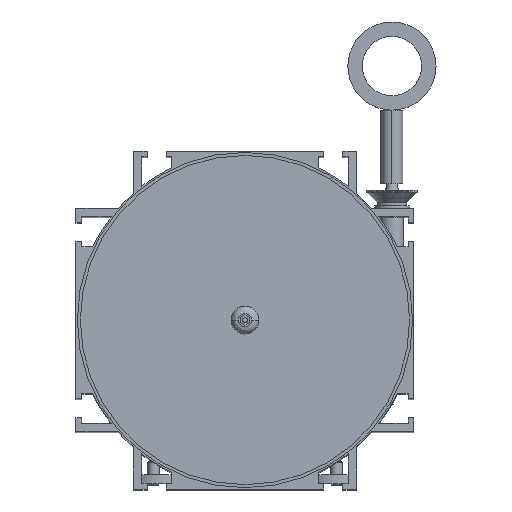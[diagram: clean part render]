
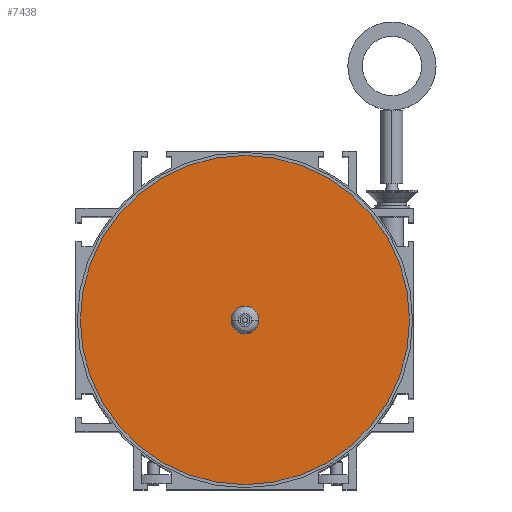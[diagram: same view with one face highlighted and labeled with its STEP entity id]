
A CAD part, top view. The second image highlights one B-rep face of the part: STEP entity #7438.
In plain terms, the highlighted planar face has unit normal (0, 0, 1).
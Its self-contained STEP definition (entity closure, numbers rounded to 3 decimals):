
#1903=CARTESIAN_POINT('',(0.,0.,180.5));
#1904=DIRECTION('',(0.,0.,1.));
#1905=DIRECTION('',(-1.,0.,0.));
#1906=AXIS2_PLACEMENT_3D('',#1903,#1904,#1905);
#1908=CARTESIAN_POINT('',(0.,0.,180.5));
#1909=DIRECTION('',(0.,0.,-1.));
#1910=DIRECTION('',(-1.,0.,0.));
#1911=AXIS2_PLACEMENT_3D('',#1908,#1909,#1910);
#1913=CARTESIAN_POINT('',(0.,0.,180.5));
#1914=DIRECTION('',(0.,0.,1.));
#1915=DIRECTION('',(-1.,0.,0.));
#1916=AXIS2_PLACEMENT_3D('',#1913,#1914,#1915);
#1918=CARTESIAN_POINT('',(0.,0.,180.5));
#1919=DIRECTION('',(0.,0.,1.));
#1920=DIRECTION('',(1.,0.,0.));
#1921=AXIS2_PLACEMENT_3D('',#1918,#1919,#1920);
#4429=CARTESIAN_POINT('',(-56.,0.,180.5));
#4430=CARTESIAN_POINT('',(56.,0.,180.5));
#4431=VERTEX_POINT('',#4429);
#4432=VERTEX_POINT('',#4430);
#4477=CARTESIAN_POINT('',(-4.75,0.,180.5));
#4478=CARTESIAN_POINT('',(4.75,0.,180.5));
#4479=VERTEX_POINT('',#4477);
#4480=VERTEX_POINT('',#4478);
#7423=CARTESIAN_POINT('',(0.,0.,180.5));
#7424=DIRECTION('',(0.,0.,-1.));
#7425=DIRECTION('',(1.,0.,0.));
#7426=AXIS2_PLACEMENT_3D('',#7423,#7424,#7425);
#7427=PLANE('',#7426);
#7428=ORIENTED_EDGE('',*,*,#7417,.F.);
#7429=ORIENTED_EDGE('',*,*,#7403,.T.);
#7430=EDGE_LOOP('',(#7428,#7429));
#7431=FACE_OUTER_BOUND('',#7430,.F.);
#7433=ORIENTED_EDGE('',*,*,#7432,.T.);
#7435=ORIENTED_EDGE('',*,*,#7434,.T.);
#7436=EDGE_LOOP('',(#7433,#7435));
#7437=FACE_BOUND('',#7436,.F.);
#1907=CIRCLE('',#1906,56.);
#1912=CIRCLE('',#1911,56.);
#1917=CIRCLE('',#1916,4.75);
#1922=CIRCLE('',#1921,4.75);
#7403=EDGE_CURVE('',#4431,#4432,#1912,.T.);
#7417=EDGE_CURVE('',#4431,#4432,#1907,.T.);
#7432=EDGE_CURVE('',#4479,#4480,#1917,.T.);
#7434=EDGE_CURVE('',#4480,#4479,#1922,.T.);
#7438=ADVANCED_FACE('',(#7431,#7437),#7427,.F.);
